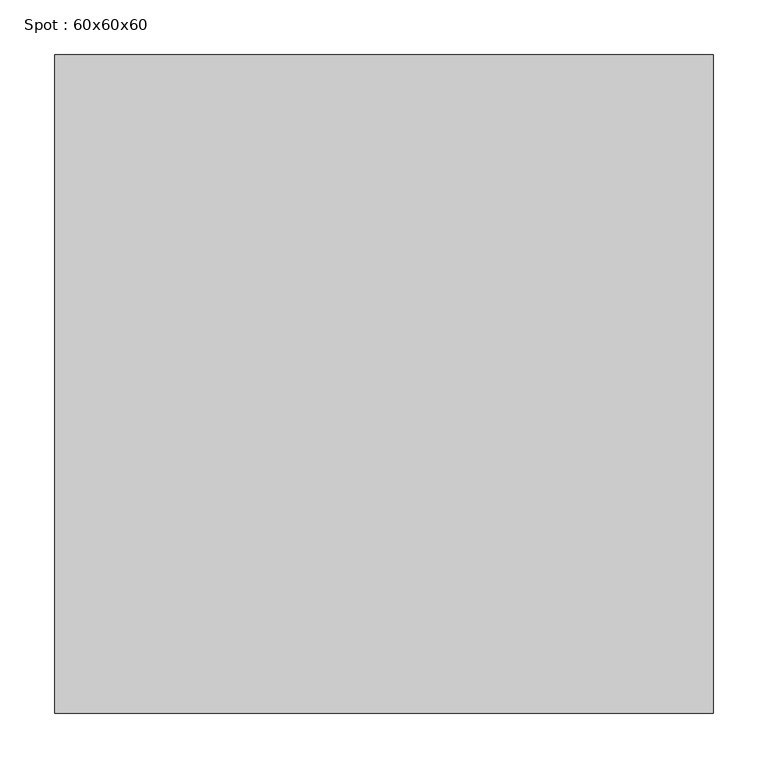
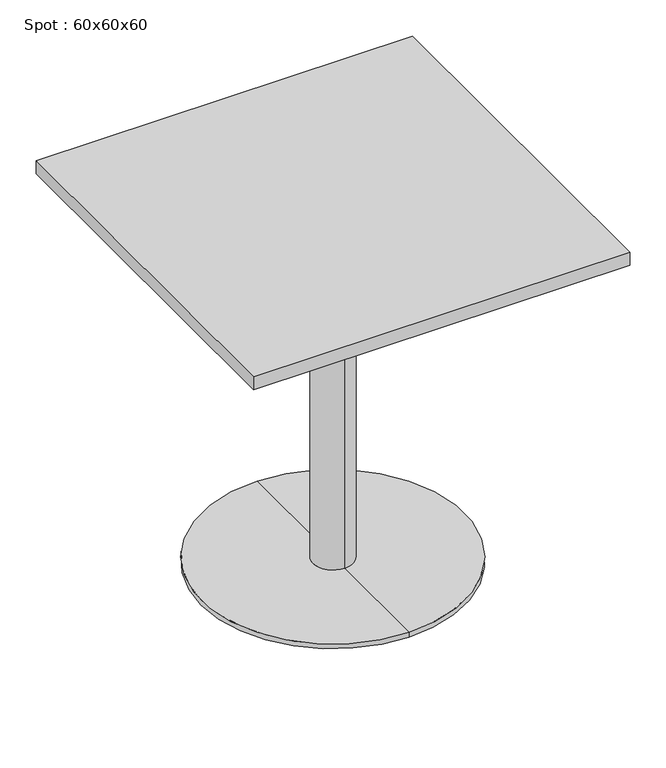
"""IFC4 building model written with IfcOpenShell, lengths in millimetres: furniture geometry, Spot : 60x60x60."""

from ifc_helpers import new_model, si_unit, frame, origin, place, context, project, spatial, polyline, circle_curve, outline, extrude, source, transform, mapped, element, save
from ifc_brep_helpers import plane_surface, cylinder_surface, revolved_surface, advanced_brep


def spot_60x60x60_39b3866d(model_context):
    return source(origin(), model_context, "Body", "SolidModel", [
        extrude(outline(polyline([(300.0, 300.0), (300.0, -300.0), (-300.0, -300.0), (-300.0, 300.0), (300.0, 300.0)])), frame((0.0, 0.0, 578.0), z_axis=(0.0, 0.0, 1.0), x_axis=(1.0, 0.0, 0.0)), (0.0, 0.0, 1.0), 22.0),
        advanced_brep(
        [(0.0, 32.0, 10.0), (0.0, -32.0, 10.0), (0.0, -32.0, 547.406916), (0.0, 32.0, 547.406916), (0.0, 210.0, 10.0), (0.0, -210.0, 10.0), (0.0, 210.0, 2.0), (0.0, -210.0, 2.0), (0.0, 0.0, 2.0), (0.0, 150.0, 578.0), (0.0, -150.0, 578.0), (0.0, 0.0, 578.0), (0.0, 150.0, 566.7213673), (0.0, -150.0, 566.7213673)],
        [
            (0, 1, circle_curve(frame((0.0, 0.0, 10.0), z_axis=(0.0, 0.0, 1.0), x_axis=(0.0, -1.0, 0.0)), 32.0)),
            (1, 2),
            (2, 3, circle_curve(frame((0.0, 0.0, 547.406916), z_axis=(0.0, 0.0, -1.0), x_axis=(0.0, -1.0, 0.0)), 32.0)),
            (3, 0),
            (1, 0, circle_curve(frame((0.0, 0.0, 10.0), z_axis=(0.0, 0.0, 1.0), x_axis=(0.0, -1.0, 0.0)), 32.0)),
            (3, 2, circle_curve(frame((0.0, 0.0, 547.406916), z_axis=(0.0, 0.0, -1.0), x_axis=(0.0, -1.0, 0.0)), 32.0)),
            (4, 5, circle_curve(frame((0.0, 0.0, 10.0), z_axis=(0.0, 0.0, 1.0), x_axis=(0.0, -1.0, 0.0)), 210.0)),
            (5, 1),
            (0, 4),
            (5, 4, circle_curve(frame((0.0, 0.0, 10.0), z_axis=(0.0, 0.0, 1.0), x_axis=(0.0, -1.0, 0.0)), 210.0)),
            (6, 7, circle_curve(frame((0.0, 0.0, 2.0), z_axis=(0.0, 0.0, 1.0), x_axis=(0.0, -1.0, 0.0)), 210.0)),
            (7, 5),
            (4, 6),
            (7, 6, circle_curve(frame((0.0, 0.0, 2.0), z_axis=(0.0, 0.0, 1.0), x_axis=(0.0, -1.0, 0.0)), 210.0)),
            (8, 7),
            (6, 8),
            (9, 10, circle_curve(frame((0.0, 0.0, 578.0), z_axis=(0.0, 0.0, 1.0), x_axis=(0.0, -1.0, 0.0)), 150.0)),
            (10, 11),
            (11, 9),
            (10, 9, circle_curve(frame((0.0, 0.0, 578.0), z_axis=(0.0, 0.0, 1.0), x_axis=(0.0, -1.0, 0.0)), 150.0)),
            (12, 13, circle_curve(frame((0.0, 0.0, 566.7213673), z_axis=(0.0, 0.0, 1.0), x_axis=(0.0, -1.0, 0.0)), 150.0)),
            (13, 10),
            (9, 12),
            (13, 12, circle_curve(frame((0.0, 0.0, 566.7213673), z_axis=(0.0, 0.0, 1.0), x_axis=(0.0, -1.0, 0.0)), 150.0)),
            (2, 13),
            (12, 3),
        ],
        [
            cylinder_surface(frame((0.0, 0.0, 940.0), z_axis=(0.0, 0.0, -1.0), x_axis=(0.0, -1.0, 0.0)), 32.0),
            plane_surface(frame((0.0, 0.0, 10.0), z_axis=(0.0, 0.0, 1.0), x_axis=(0.0, -1.0, 0.0))),
            cylinder_surface(frame((0.0, 0.0, 940.0), z_axis=(0.0, 0.0, -1.0), x_axis=(0.0, -1.0, 0.0)), 210.0),
            plane_surface(frame((0.0, 0.0, 2.0), z_axis=(0.0, 0.0, -1.0), x_axis=(0.0, -1.0, 0.0))),
            plane_surface(frame((0.0, 0.0, 578.0), z_axis=(0.0, 0.0, 1.0), x_axis=(0.0, -1.0, 0.0))),
            cylinder_surface(frame((0.0, 0.0, 940.0), z_axis=(0.0, 0.0, -1.0), x_axis=(0.0, -1.0, 0.0)), 150.0),
            revolved_surface(polyline([(0.0, -150.0, 566.7213673), (0.0, -32.0, 547.406916)]), (0.0, 0.0, 940.0), (0.0, 0.0, -1.0)),
        ],
        [
            (0, [[1, 2, 3, 4]]),
            (0, [[5, -4, 6, -2]]),
            (1, [[7, 8, -1, 9]]),
            (1, [[10, -9, -5, -8]]),
            (2, [[11, 12, -7, 13]]),
            (2, [[14, -13, -10, -12]]),
            (3, [[15, -11, 16]]),
            (3, [[-16, -14, -15]]),
            (4, [[17, 18, 19]]),
            (4, [[20, -19, -18]]),
            (5, [[21, 22, -17, 23]]),
            (5, [[24, -23, -20, -22]]),
            (6, [[-3, 25, -21, 26]]),
            (6, [[-6, -26, -24, -25]]),
        ],
    ),
    ])


if __name__ == "__main__":
    model = new_model("IFC4")
    model_context = context("Model", 3, world=origin())
    ifc_project = project(units=[si_unit("LENGTHUNIT", "METRE", prefix="MILLI")], contexts=[model_context])
    site = spatial("IfcSite", under=ifc_project)
    building = spatial("IfcBuilding", under=site)
    placement = place(None, origin())
    spot_60x60x60_shape = spot_60x60x60_39b3866d(model_context)
    element("IfcFurniture", 1, ObjectType="Spot : 60x60x60", at=placement, inside=building, context=model_context, shape_type="MappedRepresentation", body=[
        mapped(spot_60x60x60_shape, transform((0.0, 0.0, 0.0), x_axis=(1.0, 0.0, 0.0), y_axis=(0.0, 1.0, 0.0), z_axis=(0.0, 0.0, 1.0))),
    ])
    save(model, "model.ifc")
